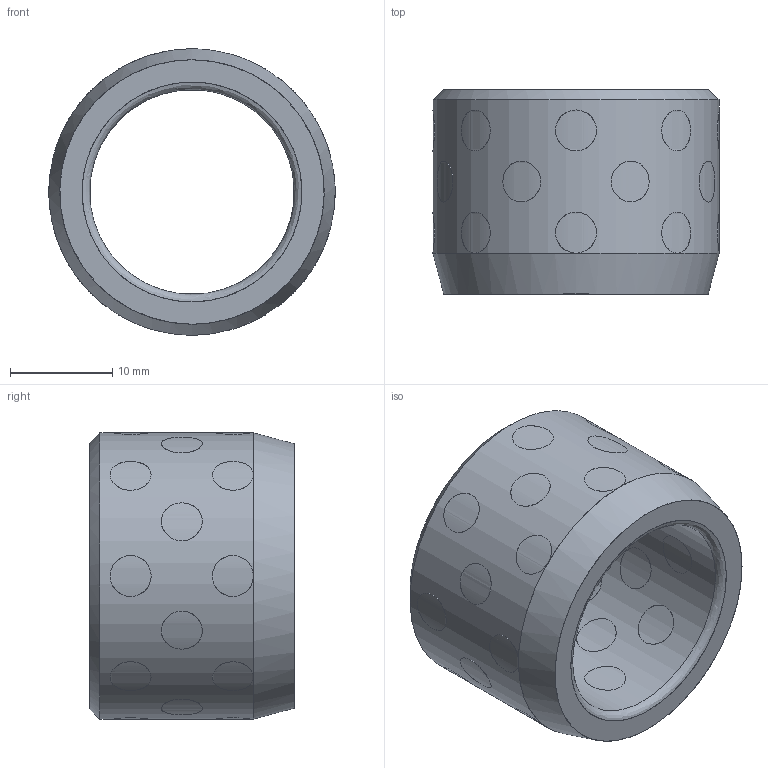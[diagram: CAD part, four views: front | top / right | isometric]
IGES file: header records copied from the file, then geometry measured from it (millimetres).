
Start section: Missler Software BP 521, 31674 Labege Cedex, France Tel   : +33 (0)5 61 00 03 00 Fax   : +33 (0)5 61 00 03 03 Email : sup.topsolid@topsolid.com
Global section: file name: D:\Cuma\18 03 2010\D30.04-2\D30.04_202028.igs; native system: TopSolid v605250 Missler Software; preprocessor: IGES preprocessor v100000; date: 030126.003558; units: millimetre
Bounding box: 28 x 20 x 28 mm (x, y, z)
Surface area: 5870.3 mm2 (no closed solid volume)
Topology: 0 solids, 0 shells, 104 faces, 2261 edges, 2192 vertices
Faces by surface type: bspline 104
